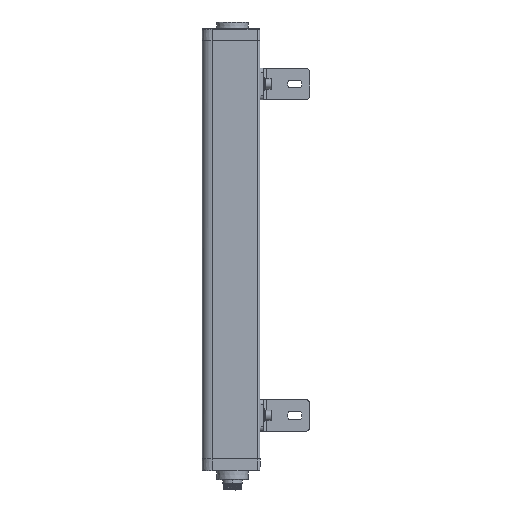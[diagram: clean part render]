
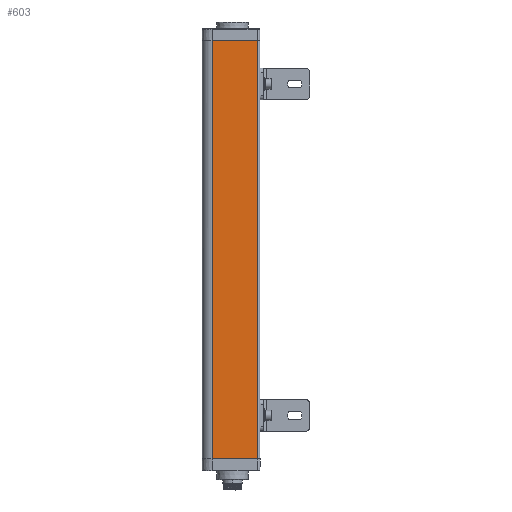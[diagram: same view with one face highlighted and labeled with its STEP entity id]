
A CAD part, left-side view. The second image highlights one B-rep face of the part: STEP entity #603.
In plain terms, the highlighted planar face has unit normal (-1, 0, 0).
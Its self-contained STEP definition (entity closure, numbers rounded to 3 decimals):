
#21=CARTESIAN_POINT('',(-17.5,18.206,0.));
#29=DIRECTION('',(0.,1.,0.));
#30=VECTOR('',#29,41.056);
#31=CARTESIAN_POINT('',(-17.5,-22.85,0.));
#32=LINE('',#31,#30);
#204=DIRECTION('',(0.,0.,1.));
#205=VECTOR('',#204,385.);
#206=CARTESIAN_POINT('',(-17.5,18.206,0.));
#207=LINE('',#206,#205);
#208=DIRECTION('',(0.,1.,0.));
#209=VECTOR('',#208,41.056);
#210=CARTESIAN_POINT('',(-17.5,-22.85,385.));
#211=LINE('',#210,#209);
#212=DIRECTION('',(0.,0.,-1.));
#213=VECTOR('',#212,385.);
#214=CARTESIAN_POINT('',(-17.5,-22.85,385.));
#215=LINE('',#214,#213);
#337=CARTESIAN_POINT('',(-17.5,-22.85,0.));
#339=VERTEX_POINT('',#337);
#350=VERTEX_POINT('',#21);
#399=CARTESIAN_POINT('',(-17.5,18.206,385.));
#400=VERTEX_POINT('',#399);
#405=CARTESIAN_POINT('',(-17.5,-22.85,385.));
#406=VERTEX_POINT('',#405);
#591=CARTESIAN_POINT('',(-17.5,18.206,1750.));
#592=DIRECTION('',(1.,0.,0.));
#593=DIRECTION('',(0.,0.,-1.));
#594=AXIS2_PLACEMENT_3D('',#591,#592,#593);
#595=PLANE('',#594);
#596=ORIENTED_EDGE('',*,*,#428,.T.);
#597=ORIENTED_EDGE('',*,*,#586,.T.);
#598=ORIENTED_EDGE('',*,*,#543,.F.);
#600=ORIENTED_EDGE('',*,*,#599,.T.);
#601=EDGE_LOOP('',(#596,#597,#598,#600));
#602=FACE_OUTER_BOUND('',#601,.F.);
#603=ADVANCED_FACE('',(#602),#595,.F.);
#428=EDGE_CURVE('',#339,#350,#32,.T.);
#543=EDGE_CURVE('',#406,#400,#211,.T.);
#586=EDGE_CURVE('',#350,#400,#207,.T.);
#599=EDGE_CURVE('',#406,#339,#215,.T.);
